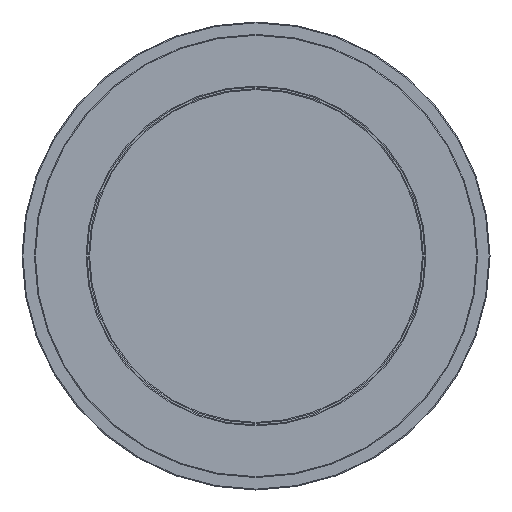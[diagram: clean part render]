
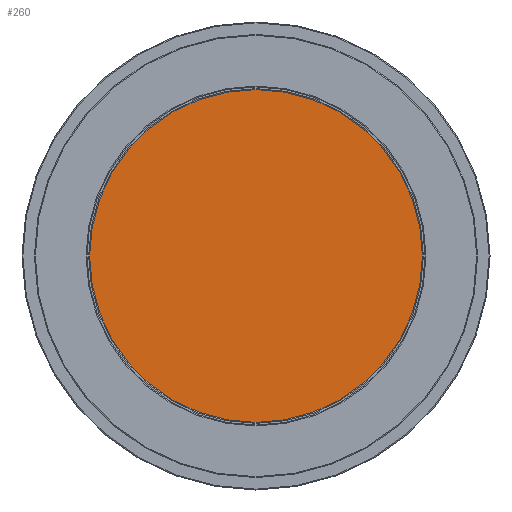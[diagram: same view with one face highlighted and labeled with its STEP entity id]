
A CAD part, front view. The second image highlights one B-rep face of the part: STEP entity #260.
In plain terms, the highlighted planar face has unit normal (0, -1, 0).
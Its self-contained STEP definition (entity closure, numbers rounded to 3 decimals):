
#260=ADVANCED_FACE('',(#3605),#3607,.T.);
#3605=FACE_BOUND('',#3606,.T.);
#3606=EDGE_LOOP('',(#4403,#4404));
#3607=PLANE('',#3608);
#3608=AXIS2_PLACEMENT_3D('',#3609,#3610,#3611);
#3609=CARTESIAN_POINT('',(0.,-36.5,0.));
#3610=DIRECTION('',(0.,-1.,0.));
#3611=DIRECTION('',(0.,0.,1.));
#4403=ORIENTED_EDGE('',*,*,#4809,.F.);
#4404=ORIENTED_EDGE('',*,*,#4808,.F.);
#4808=EDGE_CURVE('',#5385,#5386,#5387,.T.);
#4809=EDGE_CURVE('',#5386,#5385,#5388,.T.);
#5385=VERTEX_POINT('',#10332);
#5386=VERTEX_POINT('',#10333);
#5387=CIRCLE('',#10334,93.5);
#5388=CIRCLE('',#10338,93.5);
#10332=CARTESIAN_POINT('',(0.,-36.5,93.5));
#10333=CARTESIAN_POINT('',(0.,-36.5,-93.5));
#10334=AXIS2_PLACEMENT_3D('',#10335,#10336,#10337);
#10335=CARTESIAN_POINT('',(0.,-36.5,0.));
#10336=DIRECTION('',(0.,1.,0.));
#10337=DIRECTION('',(0.,0.,1.));
#10338=AXIS2_PLACEMENT_3D('',#10339,#10340,#10341);
#10339=CARTESIAN_POINT('',(0.,-36.5,0.));
#10340=DIRECTION('',(0.,1.,0.));
#10341=DIRECTION('',(0.,0.,-1.));
